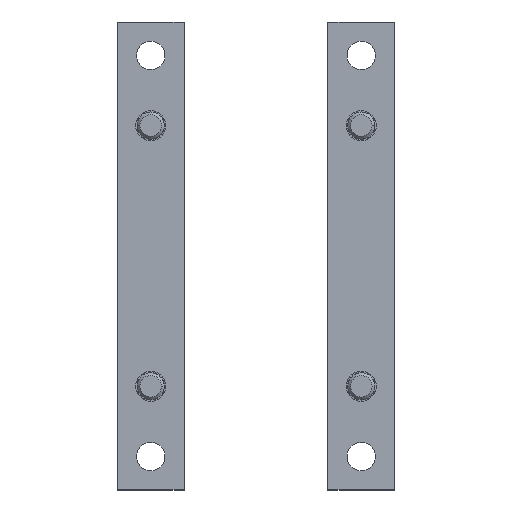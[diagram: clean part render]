
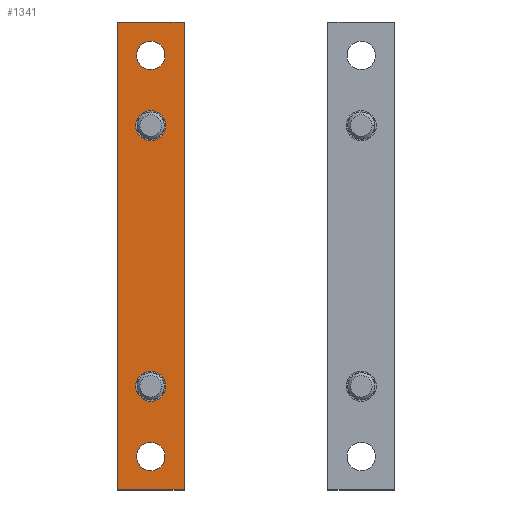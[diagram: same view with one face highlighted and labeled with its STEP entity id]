
A CAD part, top view. The second image highlights one B-rep face of the part: STEP entity #1341.
In plain terms, the highlighted planar face has unit normal (0, 0, 1).
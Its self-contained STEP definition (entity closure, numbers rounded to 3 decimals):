
#28 = CARTESIAN_POINT ( 'NONE',  ( -41.5, -60., -32. ) ) ;
#58 = VECTOR ( 'NONE', #3167, 1000. ) ;
#97 = EDGE_CURVE ( 'NONE', #1395, #2735, #3232, .T. ) ;
#101 = VERTEX_POINT ( 'NONE', #1519 ) ;
#150 = CARTESIAN_POINT ( 'NONE',  ( -31.5, -50., -32. ) ) ;
#175 = LINE ( 'NONE', #1096, #1995 ) ;
#200 = CARTESIAN_POINT ( 'NONE',  ( -31.5, -54.25, -32. ) ) ;
#223 = CARTESIAN_POINT ( 'NONE',  ( -41.5, -60., -32. ) ) ;
#285 = ORIENTED_EDGE ( 'NONE', *, *, #1875, .T. ) ;
#325 = CARTESIAN_POINT ( 'NONE',  ( -41.5, 80., -32. ) ) ;
#385 = AXIS2_PLACEMENT_3D ( 'NONE', #788, #3323, #1932 ) ;
#407 = DIRECTION ( 'NONE',  ( 0., -1., 0. ) ) ;
#416 = DIRECTION ( 'NONE',  ( 0., -1., 0. ) ) ;
#440 = CARTESIAN_POINT ( 'NONE',  ( -31.5, 49., -32. ) ) ;
#444 = DIRECTION ( 'NONE',  ( 0., 0., -1. ) ) ;
#540 = ORIENTED_EDGE ( 'NONE', *, *, #2925, .T. ) ;
#578 = EDGE_CURVE ( 'NONE', #3321, #2476, #175, .T. ) ;
#615 = DIRECTION ( 'NONE',  ( 0., -1., 0. ) ) ;
#619 = CIRCLE ( 'NONE', #2122, 4.5 ) ;
#635 = DIRECTION ( 'NONE',  ( 0., 0., -1. ) ) ;
#661 = DIRECTION ( 'NONE',  ( 0., 0., -1. ) ) ;
#673 = LINE ( 'NONE', #1280, #1079 ) ;
#674 = DIRECTION ( 'NONE',  ( 0., 0., -1. ) ) ;
#693 = ORIENTED_EDGE ( 'NONE', *, *, #2561, .T. ) ;
#749 = EDGE_CURVE ( 'NONE', #101, #1210, #1353, .T. ) ;
#754 = FACE_OUTER_BOUND ( 'NONE', #1916, .T. ) ;
#780 = DIRECTION ( 'NONE',  ( 0., 1., 0. ) ) ;
#788 = CARTESIAN_POINT ( 'NONE',  ( -31.5, 10., -32. ) ) ;
#839 = AXIS2_PLACEMENT_3D ( 'NONE', #150, #1557, #3046 ) ;
#848 = DIRECTION ( 'NONE',  ( 0., -1., 0. ) ) ;
#885 = VERTEX_POINT ( 'NONE', #2946 ) ;
#887 = DIRECTION ( 'NONE',  ( 0., 0., -1. ) ) ;
#931 = CARTESIAN_POINT ( 'NONE',  ( -31.5, 44.5, -32. ) ) ;
#956 = CARTESIAN_POINT ( 'NONE',  ( -31.5, -24.5, -32. ) ) ;
#1079 = VECTOR ( 'NONE', #3243, 1000. ) ;
#1081 = CARTESIAN_POINT ( 'NONE',  ( -31.5, 53.5, -32. ) ) ;
#1092 = ORIENTED_EDGE ( 'NONE', *, *, #578, .T. ) ;
#1096 = CARTESIAN_POINT ( 'NONE',  ( -21.5, -60., -32. ) ) ;
#1193 = EDGE_CURVE ( 'NONE', #2735, #1395, #1751, .T. ) ;
#1210 = VERTEX_POINT ( 'NONE', #200 ) ;
#1280 = CARTESIAN_POINT ( 'NONE',  ( -21.5, 80., -32. ) ) ;
#1314 = FACE_BOUND ( 'NONE', #2446, .T. ) ;
#1341 = ADVANCED_FACE ( 'NONE', ( #2178, #1314, #2461, #3344, #754 ), #2772, .F. ) ;
#1353 = CIRCLE ( 'NONE', #2361, 4.25 ) ;
#1395 = VERTEX_POINT ( 'NONE', #1081 ) ;
#1419 = CARTESIAN_POINT ( 'NONE',  ( -31.5, -50., -32. ) ) ;
#1434 = CARTESIAN_POINT ( 'NONE',  ( -31.5, 65.75, -32. ) ) ;
#1439 = CIRCLE ( 'NONE', #1730, 4.25 ) ;
#1504 = VERTEX_POINT ( 'NONE', #1434 ) ;
#1519 = CARTESIAN_POINT ( 'NONE',  ( -31.5, -45.75, -32. ) ) ;
#1557 = DIRECTION ( 'NONE',  ( 0., 0., -1. ) ) ;
#1691 = DIRECTION ( 'NONE',  ( 0., 0., -1. ) ) ;
#1730 = AXIS2_PLACEMENT_3D ( 'NONE', #3213, #887, #3193 ) ;
#1737 = CIRCLE ( 'NONE', #1983, 4.5 ) ;
#1751 = CIRCLE ( 'NONE', #1994, 4.5 ) ;
#1795 = VECTOR ( 'NONE', #407, 1000. ) ;
#1802 = DIRECTION ( 'NONE',  ( 0., -1., 0. ) ) ;
#1875 = EDGE_CURVE ( 'NONE', #3446, #1504, #2026, .T. ) ;
#1909 = DIRECTION ( 'NONE',  ( 0., -1., 0. ) ) ;
#1916 = EDGE_LOOP ( 'NONE', ( #2647, #3270, #1092, #2852 ) ) ;
#1932 = DIRECTION ( 'NONE',  ( 0., -1., 0. ) ) ;
#1940 = ORIENTED_EDGE ( 'NONE', *, *, #3166, .T. ) ;
#1983 = AXIS2_PLACEMENT_3D ( 'NONE', #3250, #661, #1802 ) ;
#1994 = AXIS2_PLACEMENT_3D ( 'NONE', #2462, #3630, #1909 ) ;
#1995 = VECTOR ( 'NONE', #780, 1000. ) ;
#2000 = EDGE_LOOP ( 'NONE', ( #2424, #3145 ) ) ;
#2026 = CIRCLE ( 'NONE', #3497, 4.25 ) ;
#2047 = CARTESIAN_POINT ( 'NONE',  ( -41.5, 80., -32. ) ) ;
#2085 = LINE ( 'NONE', #2047, #1795 ) ;
#2122 = AXIS2_PLACEMENT_3D ( 'NONE', #3030, #444, #3086 ) ;
#2178 = FACE_BOUND ( 'NONE', #2711, .T. ) ;
#2181 = ORIENTED_EDGE ( 'NONE', *, *, #749, .T. ) ;
#2323 = CARTESIAN_POINT ( 'NONE',  ( -31.5, 70., -32. ) ) ;
#2361 = AXIS2_PLACEMENT_3D ( 'NONE', #1419, #1691, #848 ) ;
#2424 = ORIENTED_EDGE ( 'NONE', *, *, #1193, .T. ) ;
#2446 = EDGE_LOOP ( 'NONE', ( #1940, #285 ) ) ;
#2461 = FACE_BOUND ( 'NONE', #2732, .T. ) ;
#2462 = CARTESIAN_POINT ( 'NONE',  ( -31.5, 49., -32. ) ) ;
#2466 = CIRCLE ( 'NONE', #839, 4.25 ) ;
#2476 = VERTEX_POINT ( 'NONE', #2724 ) ;
#2561 = EDGE_CURVE ( 'NONE', #3376, #885, #619, .T. ) ;
#2647 = ORIENTED_EDGE ( 'NONE', *, *, #3132, .T. ) ;
#2711 = EDGE_LOOP ( 'NONE', ( #540, #2181 ) ) ;
#2724 = CARTESIAN_POINT ( 'NONE',  ( -21.5, 80., -32. ) ) ;
#2732 = EDGE_LOOP ( 'NONE', ( #3610, #693 ) ) ;
#2735 = VERTEX_POINT ( 'NONE', #931 ) ;
#2756 = AXIS2_PLACEMENT_3D ( 'NONE', #440, #674, #416 ) ;
#2768 = EDGE_CURVE ( 'NONE', #3094, #3321, #3203, .T. ) ;
#2772 = PLANE ( 'NONE',  #385 ) ;
#2852 = ORIENTED_EDGE ( 'NONE', *, *, #2867, .T. ) ;
#2867 = EDGE_CURVE ( 'NONE', #2476, #3196, #673, .T. ) ;
#2925 = EDGE_CURVE ( 'NONE', #1210, #101, #2466, .T. ) ;
#2946 = CARTESIAN_POINT ( 'NONE',  ( -31.5, -33.5, -32. ) ) ;
#2949 = CARTESIAN_POINT ( 'NONE',  ( -21.5, -60., -32. ) ) ;
#3030 = CARTESIAN_POINT ( 'NONE',  ( -31.5, -29., -32. ) ) ;
#3046 = DIRECTION ( 'NONE',  ( 0., -1., 0. ) ) ;
#3086 = DIRECTION ( 'NONE',  ( 0., -1., 0. ) ) ;
#3094 = VERTEX_POINT ( 'NONE', #223 ) ;
#3132 = EDGE_CURVE ( 'NONE', #3196, #3094, #2085, .T. ) ;
#3145 = ORIENTED_EDGE ( 'NONE', *, *, #97, .T. ) ;
#3166 = EDGE_CURVE ( 'NONE', #1504, #3446, #1439, .T. ) ;
#3167 = DIRECTION ( 'NONE',  ( 1., 0., 0. ) ) ;
#3193 = DIRECTION ( 'NONE',  ( 0., -1., 0. ) ) ;
#3196 = VERTEX_POINT ( 'NONE', #325 ) ;
#3203 = LINE ( 'NONE', #28, #58 ) ;
#3213 = CARTESIAN_POINT ( 'NONE',  ( -31.5, 70., -32. ) ) ;
#3232 = CIRCLE ( 'NONE', #2756, 4.5 ) ;
#3243 = DIRECTION ( 'NONE',  ( -1., 0., 0. ) ) ;
#3250 = CARTESIAN_POINT ( 'NONE',  ( -31.5, -29., -32. ) ) ;
#3270 = ORIENTED_EDGE ( 'NONE', *, *, #2768, .T. ) ;
#3321 = VERTEX_POINT ( 'NONE', #2949 ) ;
#3323 = DIRECTION ( 'NONE',  ( 0., 0., -1. ) ) ;
#3344 = FACE_BOUND ( 'NONE', #2000, .T. ) ;
#3376 = VERTEX_POINT ( 'NONE', #956 ) ;
#3411 = EDGE_CURVE ( 'NONE', #885, #3376, #1737, .T. ) ;
#3446 = VERTEX_POINT ( 'NONE', #3676 ) ;
#3497 = AXIS2_PLACEMENT_3D ( 'NONE', #2323, #635, #615 ) ;
#3610 = ORIENTED_EDGE ( 'NONE', *, *, #3411, .T. ) ;
#3630 = DIRECTION ( 'NONE',  ( 0., 0., -1. ) ) ;
#3676 = CARTESIAN_POINT ( 'NONE',  ( -31.5, 74.25, -32. ) ) ;
